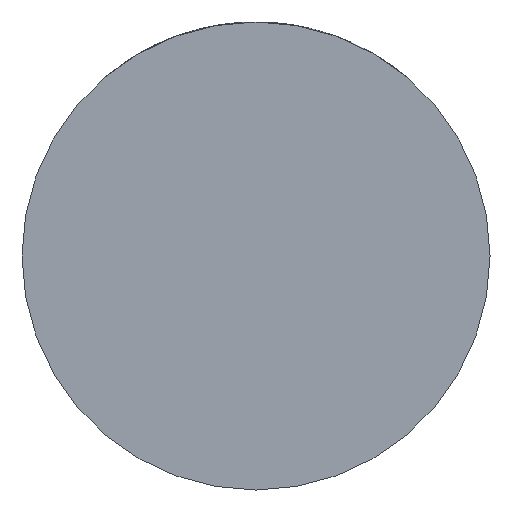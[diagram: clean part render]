
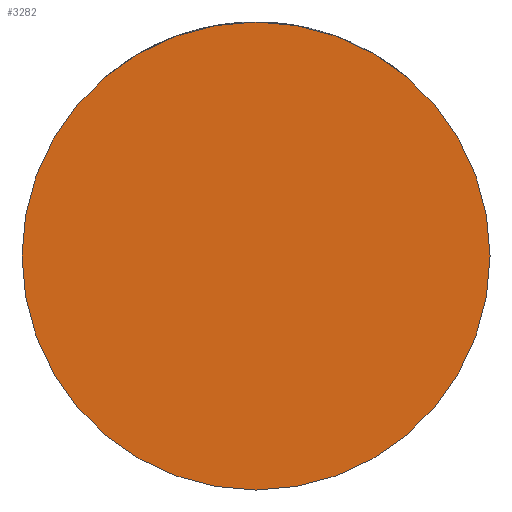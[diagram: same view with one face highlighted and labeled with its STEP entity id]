
A CAD part, front view. The second image highlights one B-rep face of the part: STEP entity #3282.
In plain terms, the highlighted planar face has unit normal (0, -1, 0).
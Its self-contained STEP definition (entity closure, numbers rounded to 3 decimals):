
#33 = VERTEX_POINT ( 'NONE', #4515 ) ;
#114 = FACE_OUTER_BOUND ( 'NONE', #2460, .T. ) ;
#281 = AXIS2_PLACEMENT_3D ( 'NONE', #949, #1648, #4066 ) ;
#324 = CARTESIAN_POINT ( 'NONE',  ( 0., -45., 0. ) ) ;
#578 = EDGE_CURVE ( 'NONE', #3319, #33, #3385, .T. ) ;
#841 = DIRECTION ( 'NONE',  ( 1., 0., 0. ) ) ;
#949 = CARTESIAN_POINT ( 'NONE',  ( 0., -45., 0. ) ) ;
#987 = EDGE_CURVE ( 'NONE', #33, #3319, #2777, .T. ) ;
#1032 = DIRECTION ( 'NONE',  ( 1., 0., 0. ) ) ;
#1226 = PLANE ( 'NONE',  #281 ) ;
#1648 = DIRECTION ( 'NONE',  ( 0., -1., 0. ) ) ;
#1750 = DIRECTION ( 'NONE',  ( 0., -1., 0. ) ) ;
#1872 = ORIENTED_EDGE ( 'NONE', *, *, #578, .T. ) ;
#2019 = AXIS2_PLACEMENT_3D ( 'NONE', #2621, #4062, #841 ) ;
#2460 = EDGE_LOOP ( 'NONE', ( #3332, #1872 ) ) ;
#2621 = CARTESIAN_POINT ( 'NONE',  ( 0., -45., 0. ) ) ;
#2700 = AXIS2_PLACEMENT_3D ( 'NONE', #324, #1750, #1032 ) ;
#2777 = CIRCLE ( 'NONE', #2019, 49. ) ;
#3176 = CARTESIAN_POINT ( 'NONE',  ( 49., -45., 0. ) ) ;
#3282 = ADVANCED_FACE ( 'NONE', ( #114 ), #1226, .T. ) ;
#3319 = VERTEX_POINT ( 'NONE', #3176 ) ;
#3332 = ORIENTED_EDGE ( 'NONE', *, *, #987, .T. ) ;
#3385 = CIRCLE ( 'NONE', #2700, 49. ) ;
#4062 = DIRECTION ( 'NONE',  ( 0., -1., 0. ) ) ;
#4066 = DIRECTION ( 'NONE',  ( 1., 0., 0. ) ) ;
#4515 = CARTESIAN_POINT ( 'NONE',  ( -49., -45., 0. ) ) ;
